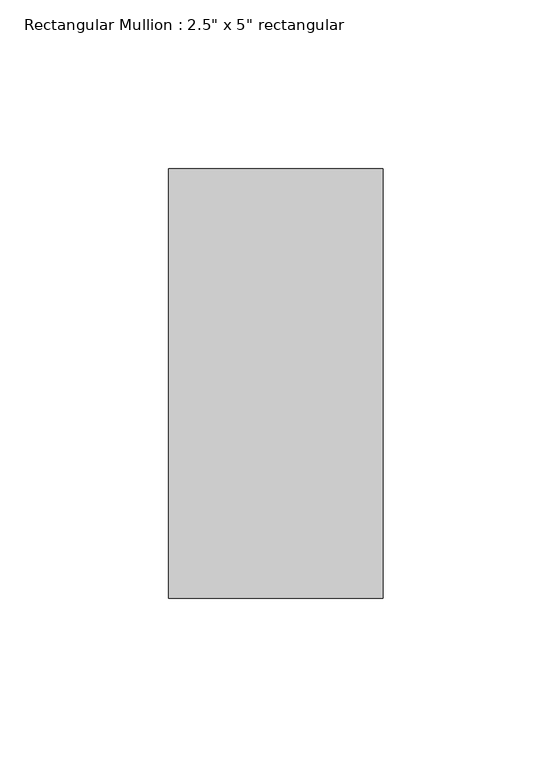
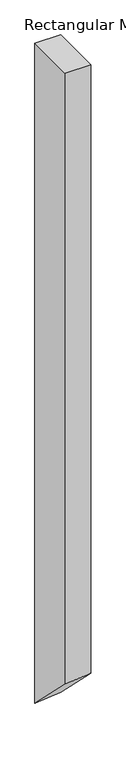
"""IFC4 building model written with IfcOpenShell, lengths in millimetres: member geometry."""

from ifc_helpers import new_model, si_unit, origin, place, context, project, spatial, faceted_brep, source, transform, mapped, element, save


def member_25f71179(model_context):
    return source(origin(), model_context, "Body", "Brep", [
        faceted_brep([(0.0, 63.5, 0.0), (-63.5, 63.5, 0.0), (-63.5, -63.5, 0.0), (0.0, -63.5, 0.0), (0.0, 63.5, -1703.7900079), (-63.5, 63.5, -1710.8280954), (-63.5, -63.5, -1584.6105796), (0.0, -63.5, -1577.5724921)], [[[0, 1, 2, 3]], [[1, 0, 4, 5]], [[2, 1, 5, 6]], [[3, 2, 6, 7]], [[0, 3, 7, 4]], [[4, 7, 6, 5]]]),
    ])


if __name__ == "__main__":
    model = new_model("IFC4")
    model_context = context("Model", 3, world=origin())
    ifc_project = project(units=[si_unit("LENGTHUNIT", "METRE", prefix="MILLI")], contexts=[model_context])
    site = spatial("IfcSite", under=ifc_project)
    building = spatial("IfcBuilding", under=site)
    placement = place(None, origin())
    member_shape = member_25f71179(model_context)
    element("IfcMember", 1, ObjectType="Rectangular Mullion : 2.5\" x 5\" rectangular", at=placement, inside=building, context=model_context, shape_type="MappedRepresentation", body=[
        mapped(member_shape, transform((0.0, 0.0, 0.0), x_axis=(1.0, 0.0, 0.0), y_axis=(0.0, 1.0, 0.0), z_axis=(0.0, 0.0, 1.0))),
    ])
    save(model, "model.ifc")
